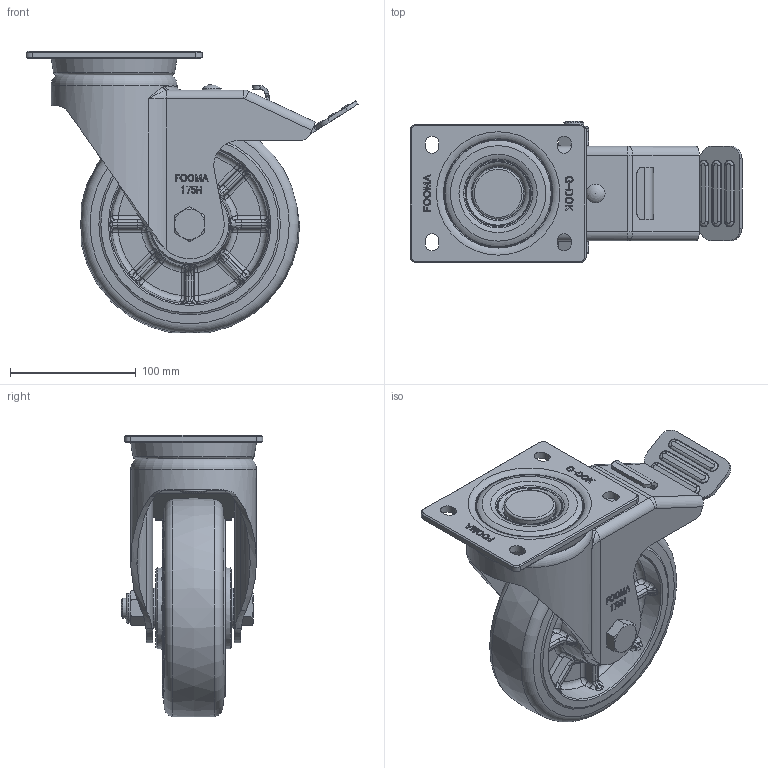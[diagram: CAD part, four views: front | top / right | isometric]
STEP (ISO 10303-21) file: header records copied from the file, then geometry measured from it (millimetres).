
FILE_DESCRIPTION(/* description */ (''),/* implementation_level */ '2;1');
FILE_NAME(/* name */ 'Y:\1.기술연구소\2.연구개발 진행중\94.PLM 고하중 개발\1.도면\3D\홈페이지용 3D\GHP-175-BSF-MUD-PEU.stp',/* time_stamp */ '2024-04-24T11:17:58+09:00',/* author */ ('장용하'),/* organization */ (''),/* preprocessor_version */ 'ST-DEVELOPER v18.1',/* originating_system */ 'Autodesk Inventor 2021',/* authorisation */ '');
FILE_SCHEMA (('AUTOMOTIVE_DESIGN { 1 0 10303 214 3 1 1 }'));
Products named in the file (1): GHP-175-BSF-MUD-PEU_Shrinkwrap_1
Bounding box: 263.77 x 112.5 x 223.9 mm (x, y, z)
Volume: 1362386.1 mm3; surface area: 234751.4 mm2
Topology: 1 solids, 1 shells, 1523 faces, 3772 edges, 2308 vertices
Faces by surface type: bspline 615, plane 469, cylinder 316, torus 72, cone 50, sphere 1
Full cylindrical faces by diameter (mm): 6 x1, 15 x2, 16 x1, 20 x1, 22.49 x1, 24 x1, 32 x2, 41 x1, 72 x2, 74 x1, 86 x1, 90 x1, 100 x1
Entity records: 56688 total; most frequent: CARTESIAN_POINT 24076, ORIENTED_EDGE 7534, DIRECTION 5532, EDGE_CURVE 3767, VERTEX_POINT 2308, AXIS2_PLACEMENT_3D 2052, EDGE_LOOP 1595, FACE_OUTER_BOUND 1523
